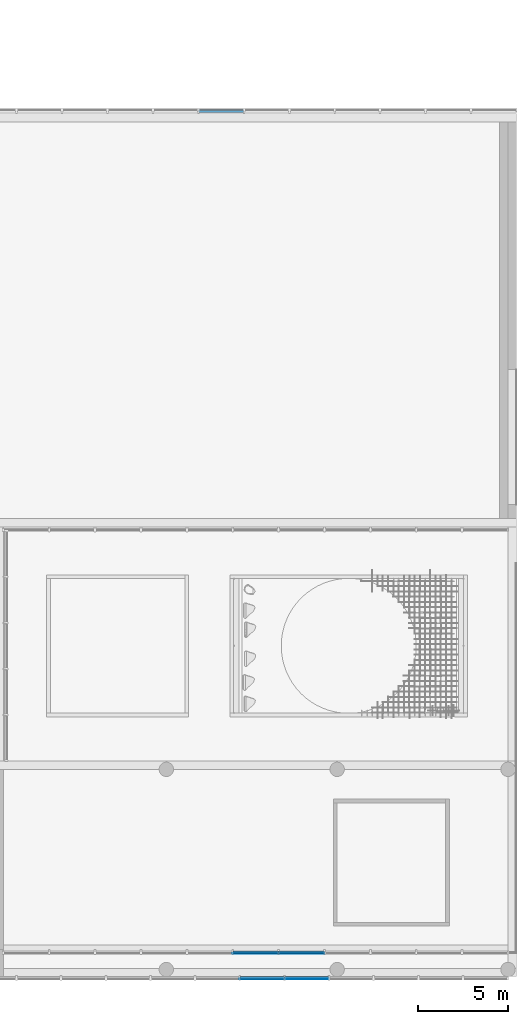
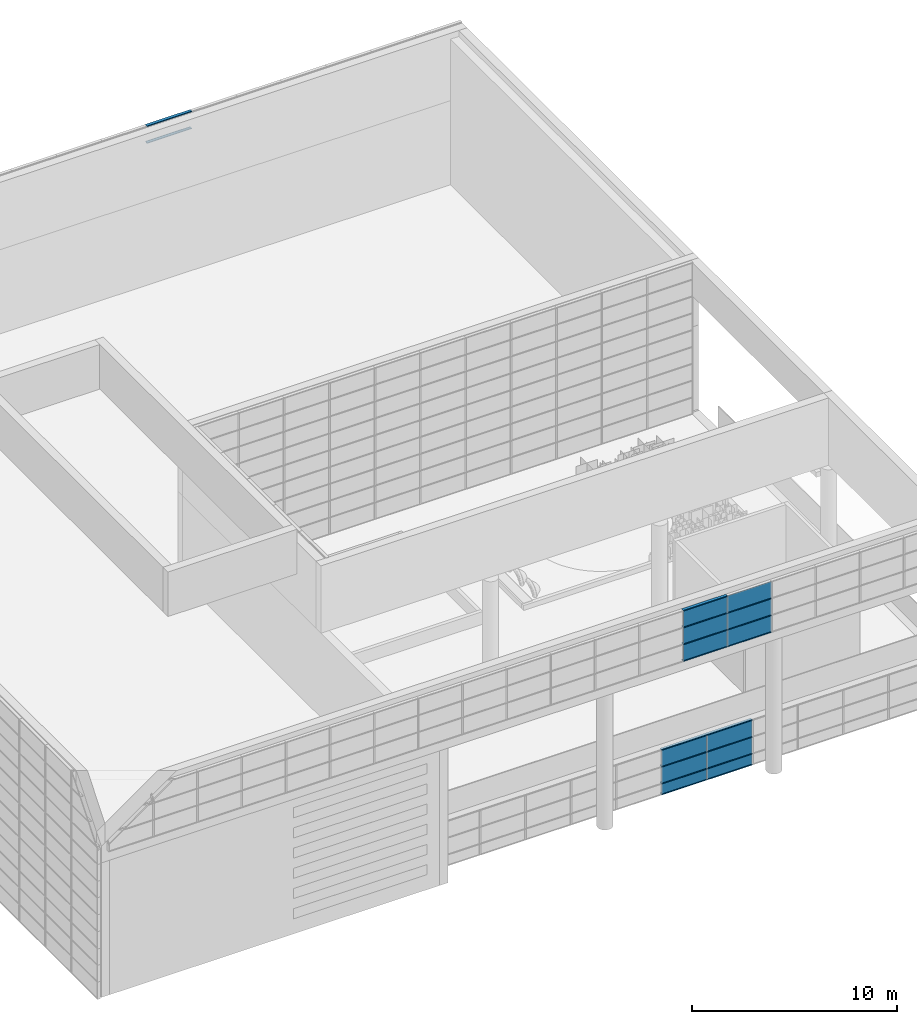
# One storey, part 52 of 105: 29 building element parts, 3 elements without a shape of their own.
"""IFC4 building model written with IfcOpenShell, lengths in millimetres."""

from ifc_helpers import new_model, entity, si_unit, converted_unit, derived_unit, direction, frame, origin_with_axes, place, context, subcontext, project, spatial, triangles, material, element, aggregate, save


model = new_model("IFC4")

# Units and contexts
model_context = context("Model", 3, precision=1e-05, world=origin_with_axes(), true_north=direction((0.0, 1.0)))
body_context = subcontext(model_context, "Body", "Model", "MODEL_VIEW")
ifc_project = project(units=[si_unit("LENGTHUNIT", "METRE", prefix="MILLI"), si_unit("AREAUNIT", "SQUARE_METRE"), si_unit("VOLUMEUNIT", "CUBIC_METRE"), converted_unit("PLANEANGLEUNIT", "DEGREE", entity("IfcLengthMeasure", 0.017453), si_unit("PLANEANGLEUNIT", "RADIAN"), dimensions=[0, 0, 0, 0, 0, 0, 0]), si_unit("SOLIDANGLEUNIT", "STERADIAN"), si_unit("MASSUNIT", "GRAM"), si_unit("TIMEUNIT", "SECOND"), si_unit("THERMODYNAMICTEMPERATUREUNIT", "DEGREE_CELSIUS"), si_unit("LUMINOUSINTENSITYUNIT", "LUMEN"), si_unit("POWERUNIT", "WATT"), derived_unit("THERMALTRANSMITTANCEUNIT", [(si_unit("POWERUNIT", "WATT"), 1), (si_unit("THERMODYNAMICTEMPERATUREUNIT", "KELVIN"), -1), (si_unit("AREAUNIT", "SQUARE_METRE"), -1)])], contexts=[model_context])

# Site, building, storey
site_placement = place(None, origin_with_axes())
site = spatial("IfcSite", under=ifc_project, at=site_placement, Name="Default Site", CompositionType="ELEMENT")
building_placement = place(site_placement, origin_with_axes())
building = spatial("IfcBuilding", under=site, at=building_placement, Name="Default Building", CompositionType="ELEMENT")
storey_placement = place(building_placement, origin_with_axes())
storey = spatial("IfcBuildingStorey", under=building, at=storey_placement, Name="OG - Story", CompositionType="ELEMENT", Elevation=0.0)

# Curtain wall, building element parts
curtain_wall_1_placement = place(storey_placement, origin_with_axes())
curtain_wall_1 = element("IfcCurtainWall", 1, at=curtain_wall_1_placement, inside=storey, Name="Fassade-001", PredefinedType="NOTDEFINED")
ifc_material_1 = material(Name="Normalglas")
building_element_part_1_placement = place(curtain_wall_1_placement, frame((52496.845873, -51289.262838, 0.0), z_axis=(0.0, 0.0, 1.0), x_axis=(1.0, 0.0, 0.0)))
building_element_part_1 = element("IfcBuildingElementPart", 2, at=building_element_part_1_placement, material=ifc_material_1, Name="Normalglas", PredefinedType="NOTDEFINED", context=body_context, shape_type="Tessellation", body=[
    triangles([(14020.0, 15.0, 645.0), (11489.091, 15.0, 645.0), (11489.091, -14.999, 645.0), (14020.0, -14.999, 645.0), (14020.0, 15.0, 5.0), (11489.091, 15.0, 5.0), (11489.091, -14.999, 5.0), (14020.0, -14.999, 5.0)], [[1, 2, 3], [1, 3, 4], [1, 5, 6], [1, 6, 2], [2, 6, 7], [2, 7, 3], [4, 3, 7], [4, 7, 8], [5, 1, 4], [5, 4, 8], [6, 5, 8], [6, 8, 7]], closed=False),
])
building_element_part_2_placement = place(curtain_wall_1_placement, frame((52496.845873, -51289.262838, 0.0), z_axis=(0.0, 0.0, 1.0), x_axis=(1.0, 0.0, 0.0)))
building_element_part_2 = element("IfcBuildingElementPart", 3, at=building_element_part_2_placement, material=ifc_material_1, Name="Normalglas", PredefinedType="NOTDEFINED", context=body_context, shape_type="Tessellation", body=[
    triangles([(16570.909, 15.0, 645.0), (14040.0, 15.0, 645.0), (14040.0, -14.999, 645.0), (16570.909, -14.999, 645.0), (16570.909, 15.0, 5.0), (14040.0, 15.0, 5.0), (14040.0, -14.999, 5.0), (16570.909, -14.999, 5.0)], [[1, 2, 3], [1, 3, 4], [1, 5, 6], [1, 6, 2], [2, 6, 7], [2, 7, 3], [4, 3, 7], [4, 7, 8], [5, 1, 4], [5, 4, 8], [6, 5, 8], [6, 8, 7]], closed=False),
])
building_element_part_3_placement = place(curtain_wall_1_placement, frame((52496.845873, -51289.262838, 0.0), z_axis=(0.0, 0.0, 1.0), x_axis=(1.0, 0.0, 0.0)))
building_element_part_3 = element("IfcBuildingElementPart", 4, at=building_element_part_3_placement, material=ifc_material_1, Name="Normalglas", PredefinedType="NOTDEFINED", context=body_context, shape_type="Tessellation", body=[
    triangles([(14020.0, 15.0, 1645.0), (11489.091, 15.0, 1645.0), (11489.091, -14.999, 1645.0), (14020.0, -14.999, 1645.0), (14020.0, 15.0, 655.0), (11489.091, 15.0, 655.0), (11489.091, -14.999, 655.0), (14020.0, -14.999, 655.0)], [[1, 2, 3], [1, 3, 4], [1, 5, 6], [1, 6, 2], [2, 6, 7], [2, 7, 3], [4, 3, 7], [4, 7, 8], [5, 1, 4], [5, 4, 8], [6, 5, 8], [6, 8, 7]], closed=False),
])
building_element_part_4_placement = place(curtain_wall_1_placement, frame((52496.845873, -51289.262838, 0.0), z_axis=(0.0, 0.0, 1.0), x_axis=(1.0, 0.0, 0.0)))
building_element_part_4 = element("IfcBuildingElementPart", 5, at=building_element_part_4_placement, material=ifc_material_1, Name="Normalglas", PredefinedType="NOTDEFINED", context=body_context, shape_type="Tessellation", body=[
    triangles([(16570.909, 15.0, 1645.0), (14040.0, 15.0, 1645.0), (14040.0, -14.999, 1645.0), (16570.909, -14.999, 1645.0), (16570.909, 15.0, 655.0), (14040.0, 15.0, 655.0), (14040.0, -14.999, 655.0), (16570.909, -14.999, 655.0)], [[1, 2, 3], [1, 3, 4], [1, 5, 6], [1, 6, 2], [2, 6, 7], [2, 7, 3], [4, 3, 7], [4, 7, 8], [5, 1, 4], [5, 4, 8], [6, 5, 8], [6, 8, 7]], closed=False),
])
building_element_part_5_placement = place(curtain_wall_1_placement, frame((52496.845873, -51289.262838, 0.0), z_axis=(0.0, 0.0, 1.0), x_axis=(1.0, 0.0, 0.0)))
building_element_part_5 = element("IfcBuildingElementPart", 6, at=building_element_part_5_placement, material=ifc_material_1, Name="Normalglas", PredefinedType="NOTDEFINED", context=body_context, shape_type="Tessellation", body=[
    triangles([(14020.0, 15.0, 2645.0), (11489.091, 15.0, 2645.0), (11489.091, -14.999, 2645.0), (14020.0, -14.999, 2645.0), (14020.0, 15.0, 1655.0), (11489.091, 15.0, 1655.0), (11489.091, -14.999, 1655.0), (14020.0, -14.999, 1655.0)], [[1, 2, 3], [1, 3, 4], [1, 5, 6], [1, 6, 2], [2, 6, 7], [2, 7, 3], [4, 3, 7], [4, 7, 8], [5, 1, 4], [5, 4, 8], [6, 5, 8], [6, 8, 7]], closed=False),
])
building_element_part_6_placement = place(curtain_wall_1_placement, frame((52496.845873, -51289.262838, 0.0), z_axis=(0.0, 0.0, 1.0), x_axis=(1.0, 0.0, 0.0)))
building_element_part_6 = element("IfcBuildingElementPart", 7, at=building_element_part_6_placement, material=ifc_material_1, Name="Normalglas", PredefinedType="NOTDEFINED", context=body_context, shape_type="Tessellation", body=[
    triangles([(16570.909, 15.0, 2645.0), (14040.0, 15.0, 2645.0), (14040.0, -14.999, 2645.0), (16570.909, -14.999, 2645.0), (16570.909, 15.0, 1655.0), (14040.0, 15.0, 1655.0), (14040.0, -14.999, 1655.0), (16570.909, -14.999, 1655.0)], [[1, 2, 3], [1, 3, 4], [1, 5, 6], [1, 6, 2], [2, 6, 7], [2, 7, 3], [4, 3, 7], [4, 7, 8], [5, 1, 4], [5, 4, 8], [6, 5, 8], [6, 8, 7]], closed=False),
])
ifc_material_2 = material(Name="Blech")
building_element_part_7_placement = place(curtain_wall_1_placement, frame((52496.845873, -51289.262838, 0.0), z_axis=(0.0, 0.0, 1.0), x_axis=(1.0, 0.0, 0.0)))
building_element_part_7 = element("IfcBuildingElementPart", 8, at=building_element_part_7_placement, material=ifc_material_2, Name="Blech", PredefinedType="NOTDEFINED", context=body_context, shape_type="Tessellation", body=[
    triangles([(14030.0, 15.0, 25.0), (14030.0, 133.0, 25.0), (14030.0, 15.0, 5.0), (14030.0, 133.0, -24.999), (14030.0, -14.999, 5.0), (14030.0, -34.999, -24.999), (14030.0, -14.999, 25.0), (14030.0, -34.999, 25.0), (11479.091, 15.0, 5.0), (11479.091, -14.999, 5.0), (11479.091, -14.999, 25.0), (11479.091, -34.999, 25.0), (11479.091, -34.999, -24.999), (11479.091, 133.0, -24.999), (11479.091, 133.0, 25.0), (11479.091, 15.0, 25.0)], [[1, 2, 3], [3, 2, 4], [3, 4, 5], [5, 4, 6], [5, 6, 7], [7, 6, 8], [5, 3, 9], [5, 9, 10], [11, 7, 5], [11, 5, 10], [7, 11, 12], [7, 12, 8], [13, 6, 8], [13, 8, 12], [14, 4, 6], [14, 6, 13], [15, 2, 4], [15, 4, 14], [16, 1, 2], [16, 2, 15], [3, 1, 16], [3, 16, 9], [16, 15, 9], [9, 15, 14], [9, 14, 10], [10, 14, 13], [10, 13, 11], [11, 13, 12]], closed=False),
])
building_element_part_8_placement = place(curtain_wall_1_placement, frame((52496.845873, -51289.262838, 0.0), z_axis=(0.0, 0.0, 1.0), x_axis=(1.0, 0.0, 0.0)))
building_element_part_8 = element("IfcBuildingElementPart", 9, at=building_element_part_8_placement, material=ifc_material_2, Name="Blech", PredefinedType="NOTDEFINED", context=body_context, shape_type="Tessellation", body=[
    triangles([(16580.909, 15.0, 25.0), (16580.909, 133.0, 25.0), (16580.909, 15.0, 5.0), (16580.909, 133.0, -24.999), (16580.909, -14.999, 5.0), (16580.909, -34.999, -24.999), (16580.909, -14.999, 25.0), (16580.909, -34.999, 25.0), (14030.0, 15.0, 5.0), (14030.0, -14.999, 5.0), (14030.0, -14.999, 25.0), (14030.0, -34.999, 25.0), (14030.0, -34.999, -24.999), (14030.0, 133.0, -24.999), (14030.0, 133.0, 25.0), (14030.0, 15.0, 25.0)], [[1, 2, 3], [3, 2, 4], [3, 4, 5], [5, 4, 6], [5, 6, 7], [7, 6, 8], [5, 3, 9], [5, 9, 10], [11, 7, 5], [11, 5, 10], [7, 11, 12], [7, 12, 8], [13, 6, 8], [13, 8, 12], [14, 4, 6], [14, 6, 13], [15, 2, 4], [15, 4, 14], [16, 1, 2], [16, 2, 15], [3, 1, 16], [3, 16, 9], [16, 15, 9], [9, 15, 14], [9, 14, 10], [10, 14, 13], [10, 13, 11], [11, 13, 12]], closed=False),
])
building_element_part_9_placement = place(curtain_wall_1_placement, frame((52496.845873, -51289.262838, 0.0), z_axis=(0.0, 0.0, 1.0), x_axis=(1.0, 0.0, 0.0)))
building_element_part_9 = element("IfcBuildingElementPart", 10, at=building_element_part_9_placement, material=ifc_material_2, Name="Blech", PredefinedType="NOTDEFINED", context=body_context, shape_type="Tessellation", body=[
    triangles([(14030.0, 133.0, 675.0), (14030.0, 15.0, 675.0), (14030.0, 133.0, 625.0), (14030.0, 15.0, 655.0), (14030.0, 15.0, 645.0), (14030.0, -14.999, 655.0), (14030.0, -14.999, 645.0), (14030.0, -14.999, 625.0), (14030.0, -14.999, 675.0), (14030.0, -34.999, 675.0), (14030.0, -34.999, 625.0), (14030.0, 15.0, 625.0), (11479.091, 15.0, 645.0), (11479.091, 15.0, 625.0), (11479.091, 133.0, 625.0), (11479.091, 133.0, 675.0), (11479.091, 15.0, 675.0), (11479.091, 15.0, 655.0), (11479.091, -14.999, 655.0), (11479.091, -14.999, 675.0), (11479.091, -34.999, 675.0), (11479.091, -34.999, 625.0), (11479.091, -14.999, 625.0), (11479.091, -14.999, 645.0)], [[1, 2, 3], [3, 2, 4], [3, 4, 5], [5, 4, 6], [5, 6, 7], [8, 9, 10], [8, 10, 11], [3, 5, 12], [12, 5, 13], [12, 13, 14], [12, 14, 15], [12, 15, 3], [1, 3, 15], [1, 15, 16], [2, 1, 16], [2, 16, 17], [2, 17, 18], [2, 18, 4], [4, 18, 19], [4, 19, 6], [9, 6, 19], [9, 19, 20], [20, 21, 10], [20, 10, 9], [11, 10, 21], [11, 21, 22], [23, 8, 11], [23, 11, 22], [7, 8, 23], [7, 23, 24], [5, 7, 24], [5, 24, 13], [15, 14, 16], [16, 14, 13], [16, 13, 18], [18, 13, 24], [18, 24, 19], [20, 23, 22], [20, 22, 21], [16, 18, 17]], closed=False),
])
building_element_part_10_placement = place(curtain_wall_1_placement, frame((52496.845873, -51289.262838, 0.0), z_axis=(0.0, 0.0, 1.0), x_axis=(1.0, 0.0, 0.0)))
building_element_part_10 = element("IfcBuildingElementPart", 11, at=building_element_part_10_placement, material=ifc_material_2, Name="Blech", PredefinedType="NOTDEFINED", context=body_context, shape_type="Tessellation", body=[
    triangles([(16580.909, 133.0, 675.0), (16580.909, 15.0, 675.0), (16580.909, 133.0, 625.0), (16580.909, 15.0, 655.0), (16580.909, 15.0, 645.0), (16580.909, -14.999, 655.0), (16580.909, -14.999, 645.0), (16580.909, -14.999, 625.0), (16580.909, -14.999, 675.0), (16580.909, -34.999, 675.0), (16580.909, -34.999, 625.0), (16580.909, 15.0, 625.0), (14030.0, 15.0, 645.0), (14030.0, 15.0, 625.0), (14030.0, 133.0, 625.0), (14030.0, 133.0, 675.0), (14030.0, 15.0, 675.0), (14030.0, 15.0, 655.0), (14030.0, -14.999, 655.0), (14030.0, -14.999, 675.0), (14030.0, -34.999, 675.0), (14030.0, -34.999, 625.0), (14030.0, -14.999, 625.0), (14030.0, -14.999, 645.0)], [[1, 2, 3], [3, 2, 4], [3, 4, 5], [5, 4, 6], [5, 6, 7], [8, 9, 10], [8, 10, 11], [3, 5, 12], [12, 5, 13], [12, 13, 14], [12, 14, 15], [12, 15, 3], [1, 3, 15], [1, 15, 16], [2, 1, 16], [2, 16, 17], [2, 17, 18], [2, 18, 4], [4, 18, 19], [4, 19, 6], [9, 6, 19], [9, 19, 20], [20, 21, 10], [20, 10, 9], [11, 10, 21], [11, 21, 22], [23, 8, 11], [23, 11, 22], [7, 8, 23], [7, 23, 24], [5, 7, 24], [5, 24, 13], [15, 14, 16], [16, 14, 13], [16, 13, 18], [18, 13, 24], [18, 24, 19], [20, 23, 22], [20, 22, 21], [16, 18, 17]], closed=False),
])
building_element_part_11_placement = place(curtain_wall_1_placement, frame((52496.845873, -51289.262838, 0.0), z_axis=(0.0, 0.0, 1.0), x_axis=(1.0, 0.0, 0.0)))
building_element_part_11 = element("IfcBuildingElementPart", 12, at=building_element_part_11_placement, material=ifc_material_2, Name="Blech", PredefinedType="NOTDEFINED", context=body_context, shape_type="Tessellation", body=[
    triangles([(14030.0, 133.0, 1675.0), (14030.0, 15.0, 1675.0), (14030.0, 133.0, 1625.0), (14030.0, 15.0, 1655.0), (14030.0, 15.0, 1645.0), (14030.0, -14.999, 1655.0), (14030.0, -14.999, 1645.0), (14030.0, -14.999, 1625.0), (14030.0, -14.999, 1675.0), (14030.0, -34.999, 1675.0), (14030.0, -34.999, 1625.0), (14030.0, 15.0, 1625.0), (11479.091, 15.0, 1645.0), (11479.091, 15.0, 1625.0), (11479.091, 133.0, 1625.0), (11479.091, 133.0, 1675.0), (11479.091, 15.0, 1675.0), (11479.091, 15.0, 1655.0), (11479.091, -14.999, 1655.0), (11479.091, -14.999, 1675.0), (11479.091, -34.999, 1675.0), (11479.091, -34.999, 1625.0), (11479.091, -14.999, 1625.0), (11479.091, -14.999, 1645.0)], [[1, 2, 3], [3, 2, 4], [3, 4, 5], [5, 4, 6], [5, 6, 7], [8, 9, 10], [8, 10, 11], [3, 5, 12], [12, 5, 13], [12, 13, 14], [12, 14, 15], [12, 15, 3], [1, 3, 15], [1, 15, 16], [2, 1, 16], [2, 16, 17], [2, 17, 18], [2, 18, 4], [4, 18, 19], [4, 19, 6], [9, 6, 19], [9, 19, 20], [20, 21, 10], [20, 10, 9], [11, 10, 21], [11, 21, 22], [23, 8, 11], [23, 11, 22], [7, 8, 23], [7, 23, 24], [5, 7, 24], [5, 24, 13], [15, 14, 16], [16, 14, 13], [16, 13, 18], [18, 13, 24], [18, 24, 19], [20, 23, 22], [20, 22, 21], [16, 18, 17]], closed=False),
])
building_element_part_12_placement = place(curtain_wall_1_placement, frame((52496.845873, -51289.262838, 0.0), z_axis=(0.0, 0.0, 1.0), x_axis=(1.0, 0.0, 0.0)))
building_element_part_12 = element("IfcBuildingElementPart", 13, at=building_element_part_12_placement, material=ifc_material_2, Name="Blech", PredefinedType="NOTDEFINED", context=body_context, shape_type="Tessellation", body=[
    triangles([(14030.0, 15.0, 2625.0), (14030.0, 133.0, 2625.0), (14030.0, 15.0, 2645.0), (14030.0, 133.0, 2675.0), (14030.0, -14.999, 2645.0), (14030.0, -34.999, 2675.0), (14030.0, -14.999, 2625.0), (14030.0, -34.999, 2625.0), (11479.091, 15.0, 2645.0), (11479.091, 15.0, 2625.0), (11479.091, 133.0, 2625.0), (11479.091, 133.0, 2675.0), (11479.091, -34.999, 2675.0), (11479.091, -34.999, 2625.0), (11479.091, -14.999, 2625.0), (11479.091, -14.999, 2645.0)], [[1, 2, 3], [3, 2, 4], [3, 4, 5], [5, 4, 6], [5, 6, 7], [7, 6, 8], [3, 9, 10], [3, 10, 1], [10, 11, 2], [10, 2, 1], [11, 12, 4], [11, 4, 2], [12, 13, 6], [12, 6, 4], [13, 14, 8], [13, 8, 6], [7, 8, 14], [7, 14, 15], [15, 16, 5], [15, 5, 7], [5, 16, 9], [5, 9, 3], [10, 11, 9], [9, 11, 12], [9, 12, 16], [16, 12, 13], [16, 13, 15], [15, 13, 14]], closed=False),
])
building_element_part_13_placement = place(curtain_wall_1_placement, frame((52496.845873, -51289.262838, 0.0), z_axis=(0.0, 0.0, 1.0), x_axis=(1.0, 0.0, 0.0)))
building_element_part_13 = element("IfcBuildingElementPart", 14, at=building_element_part_13_placement, material=ifc_material_2, Name="Blech", PredefinedType="NOTDEFINED", context=body_context, shape_type="Tessellation", body=[
    triangles([(16580.909, 133.0, 1675.0), (16580.909, 15.0, 1675.0), (16580.909, 133.0, 1625.0), (16580.909, 15.0, 1655.0), (16580.909, 15.0, 1645.0), (16580.909, -14.999, 1655.0), (16580.909, -14.999, 1645.0), (16580.909, -14.999, 1625.0), (16580.909, -14.999, 1675.0), (16580.909, -34.999, 1675.0), (16580.909, -34.999, 1625.0), (16580.909, 15.0, 1625.0), (14030.0, 15.0, 1645.0), (14030.0, 15.0, 1625.0), (14030.0, 133.0, 1625.0), (14030.0, 133.0, 1675.0), (14030.0, 15.0, 1675.0), (14030.0, 15.0, 1655.0), (14030.0, -14.999, 1655.0), (14030.0, -14.999, 1675.0), (14030.0, -34.999, 1675.0), (14030.0, -34.999, 1625.0), (14030.0, -14.999, 1625.0), (14030.0, -14.999, 1645.0)], [[1, 2, 3], [3, 2, 4], [3, 4, 5], [5, 4, 6], [5, 6, 7], [8, 9, 10], [8, 10, 11], [3, 5, 12], [12, 5, 13], [12, 13, 14], [12, 14, 15], [12, 15, 3], [1, 3, 15], [1, 15, 16], [2, 1, 16], [2, 16, 17], [2, 17, 18], [2, 18, 4], [4, 18, 19], [4, 19, 6], [9, 6, 19], [9, 19, 20], [20, 21, 10], [20, 10, 9], [11, 10, 21], [11, 21, 22], [23, 8, 11], [23, 11, 22], [7, 8, 23], [7, 23, 24], [5, 7, 24], [5, 24, 13], [15, 14, 16], [16, 14, 13], [16, 13, 18], [18, 13, 24], [18, 24, 19], [20, 23, 22], [20, 22, 21], [16, 18, 17]], closed=False),
])
building_element_part_14_placement = place(curtain_wall_1_placement, frame((52496.845873, -51289.262838, 0.0), z_axis=(0.0, 0.0, 1.0), x_axis=(1.0, 0.0, 0.0)))
building_element_part_14 = element("IfcBuildingElementPart", 15, at=building_element_part_14_placement, material=ifc_material_2, Name="Blech", PredefinedType="NOTDEFINED", context=body_context, shape_type="Tessellation", body=[
    triangles([(16580.909, 15.0, 2625.0), (16580.909, 133.0, 2625.0), (16580.909, 15.0, 2645.0), (16580.909, 133.0, 2675.0), (16580.909, -14.999, 2645.0), (16580.909, -34.999, 2675.0), (16580.909, -14.999, 2625.0), (16580.909, -34.999, 2625.0), (14030.0, 15.0, 2645.0), (14030.0, 15.0, 2625.0), (14030.0, 133.0, 2625.0), (14030.0, 133.0, 2675.0), (14030.0, -34.999, 2675.0), (14030.0, -34.999, 2625.0), (14030.0, -14.999, 2625.0), (14030.0, -14.999, 2645.0)], [[1, 2, 3], [3, 2, 4], [3, 4, 5], [5, 4, 6], [5, 6, 7], [7, 6, 8], [3, 9, 10], [3, 10, 1], [10, 11, 2], [10, 2, 1], [11, 12, 4], [11, 4, 2], [12, 13, 6], [12, 6, 4], [13, 14, 8], [13, 8, 6], [7, 8, 14], [7, 14, 15], [15, 16, 5], [15, 5, 7], [5, 16, 9], [5, 9, 3], [10, 11, 9], [9, 11, 12], [9, 12, 16], [16, 12, 13], [16, 13, 15], [15, 13, 14]], closed=False),
])
aggregate(curtain_wall_1, [building_element_part_1, building_element_part_2, building_element_part_3, building_element_part_4, building_element_part_5, building_element_part_6, building_element_part_7, building_element_part_8, building_element_part_9, building_element_part_10, building_element_part_11, building_element_part_12, building_element_part_13, building_element_part_14])

curtain_wall_2_placement = place(storey_placement, origin_with_axes())
curtain_wall_2 = element("IfcCurtainWall", 16, at=curtain_wall_2_placement, inside=storey, Name="Fassade-002", PredefinedType="NOTDEFINED")
building_element_part_15_placement = place(curtain_wall_2_placement, frame((33339.077852, -52722.262838, 8660.317768), z_axis=(0.0, 0.0, 1.0), x_axis=(1.0, 0.0, 0.0)))
building_element_part_15 = element("IfcBuildingElementPart", 17, at=building_element_part_15_placement, material=ifc_material_1, Name="Normalglas", PredefinedType="NOTDEFINED", context=body_context, shape_type="Tessellation", body=[
    triangles([(33498.254, 15.0, 995.0), (31036.161, 15.0, 995.0), (31036.161, -14.999, 995.0), (33498.254, -14.999, 995.0), (33498.254, 15.0, 5.0), (31036.161, 15.0, 5.0), (31036.161, -14.999, 5.0), (33498.254, -14.999, 5.0)], [[1, 2, 3], [1, 3, 4], [1, 5, 6], [1, 6, 2], [2, 6, 7], [2, 7, 3], [4, 3, 7], [4, 7, 8], [5, 1, 4], [5, 4, 8], [6, 5, 8], [6, 8, 7]], closed=False),
])
building_element_part_16_placement = place(curtain_wall_2_placement, frame((33339.077852, -52722.262838, 8660.317768), z_axis=(0.0, 0.0, 1.0), x_axis=(1.0, 0.0, 0.0)))
building_element_part_16 = element("IfcBuildingElementPart", 18, at=building_element_part_16_placement, material=ifc_material_1, Name="Normalglas", PredefinedType="NOTDEFINED", context=body_context, shape_type="Tessellation", body=[
    triangles([(33498.254, 15.0, 1995.0), (31036.161, 15.0, 1995.0), (31036.161, -14.999, 1995.0), (33498.254, -14.999, 1995.0), (33498.254, 15.0, 1005.0), (31036.161, 15.0, 1005.0), (31036.161, -14.999, 1005.0), (33498.254, -14.999, 1005.0)], [[1, 2, 3], [1, 3, 4], [1, 5, 6], [1, 6, 2], [2, 6, 7], [2, 7, 3], [4, 3, 7], [4, 7, 8], [5, 1, 4], [5, 4, 8], [6, 5, 8], [6, 8, 7]], closed=False),
])
building_element_part_17_placement = place(curtain_wall_2_placement, frame((33339.077852, -52722.262838, 8660.317768), z_axis=(0.0, 0.0, 1.0), x_axis=(1.0, 0.0, 0.0)))
building_element_part_17 = element("IfcBuildingElementPart", 19, at=building_element_part_17_placement, material=ifc_material_1, Name="Normalglas", PredefinedType="NOTDEFINED", context=body_context, shape_type="Tessellation", body=[
    triangles([(33498.254, 15.0, 2995.0), (31036.161, 15.0, 2995.0), (31036.161, -14.999, 2995.0), (33498.254, -14.999, 2995.0), (33498.254, 15.0, 2005.0), (31036.161, 15.0, 2005.0), (31036.161, -14.999, 2005.0), (33498.254, -14.999, 2005.0)], [[1, 2, 3], [1, 3, 4], [1, 5, 6], [1, 6, 2], [2, 6, 7], [2, 7, 3], [4, 3, 7], [4, 7, 8], [5, 1, 4], [5, 4, 8], [6, 5, 8], [6, 8, 7]], closed=False),
])
building_element_part_18_placement = place(curtain_wall_2_placement, frame((33339.077852, -52722.262838, 8660.317768), z_axis=(0.0, 0.0, 1.0), x_axis=(1.0, 0.0, 0.0)))
building_element_part_18 = element("IfcBuildingElementPart", 20, at=building_element_part_18_placement, material=ifc_material_1, Name="Normalglas", PredefinedType="NOTDEFINED", context=body_context, shape_type="Tessellation", body=[
    triangles([(35980.347, 15.0, 995.0), (33518.254, 15.0, 995.0), (33518.254, -14.999, 995.0), (35980.347, -14.999, 995.0), (35980.347, 15.0, 5.0), (33518.254, 15.0, 5.0), (33518.254, -14.999, 5.0), (35980.347, -14.999, 5.0)], [[1, 2, 3], [1, 3, 4], [1, 5, 6], [1, 6, 2], [2, 6, 7], [2, 7, 3], [4, 3, 7], [4, 7, 8], [5, 1, 4], [5, 4, 8], [6, 5, 8], [6, 8, 7]], closed=False),
])
building_element_part_19_placement = place(curtain_wall_2_placement, frame((33339.077852, -52722.262838, 8660.317768), z_axis=(0.0, 0.0, 1.0), x_axis=(1.0, 0.0, 0.0)))
building_element_part_19 = element("IfcBuildingElementPart", 21, at=building_element_part_19_placement, material=ifc_material_1, Name="Normalglas", PredefinedType="NOTDEFINED", context=body_context, shape_type="Tessellation", body=[
    triangles([(35980.347, 15.0, 1995.0), (33518.254, 15.0, 1995.0), (33518.254, -14.999, 1995.0), (35980.347, -14.999, 1995.0), (35980.347, 15.0, 1005.0), (33518.254, 15.0, 1005.0), (33518.254, -14.999, 1005.0), (35980.347, -14.999, 1005.0)], [[1, 2, 3], [1, 3, 4], [1, 5, 6], [1, 6, 2], [2, 6, 7], [2, 7, 3], [4, 3, 7], [4, 7, 8], [5, 1, 4], [5, 4, 8], [6, 5, 8], [6, 8, 7]], closed=False),
])
building_element_part_20_placement = place(curtain_wall_2_placement, frame((33339.077852, -52722.262838, 8660.317768), z_axis=(0.0, 0.0, 1.0), x_axis=(1.0, 0.0, 0.0)))
building_element_part_20 = element("IfcBuildingElementPart", 22, at=building_element_part_20_placement, material=ifc_material_1, Name="Normalglas", PredefinedType="NOTDEFINED", context=body_context, shape_type="Tessellation", body=[
    triangles([(35980.347, 15.0, 2995.0), (33518.254, 15.0, 2995.0), (33518.254, -14.999, 2995.0), (35980.347, -14.999, 2995.0), (35980.347, 15.0, 2005.0), (33518.254, 15.0, 2005.0), (33518.254, -14.999, 2005.0), (35980.347, -14.999, 2005.0)], [[1, 2, 3], [1, 3, 4], [1, 5, 6], [1, 6, 2], [2, 6, 7], [2, 7, 3], [4, 3, 7], [4, 7, 8], [5, 1, 4], [5, 4, 8], [6, 5, 8], [6, 8, 7]], closed=False),
])
building_element_part_21_placement = place(curtain_wall_2_placement, frame((33339.077852, -52722.262838, 8660.317768), z_axis=(0.0, 0.0, 1.0), x_axis=(1.0, 0.0, 0.0)))
building_element_part_21 = element("IfcBuildingElementPart", 23, at=building_element_part_21_placement, material=ifc_material_2, Name="Blech", PredefinedType="NOTDEFINED", context=body_context, shape_type="Tessellation", body=[
    triangles([(33508.254, 15.0, 25.0), (33508.254, 133.0, 25.0), (33508.254, 15.0, 5.0), (33508.254, 133.0, -24.999), (33508.254, -14.999, 5.0), (33508.254, -34.999, -24.999), (33508.254, -14.999, 25.0), (33508.254, -34.999, 25.0), (31026.161, 15.0, 5.0), (31026.161, -14.999, 5.0), (31026.161, -14.999, 25.0), (31026.161, -34.999, 25.0), (31026.161, -34.999, -24.999), (31026.161, 133.0, -24.999), (31026.161, 133.0, 25.0), (31026.161, 15.0, 25.0)], [[1, 2, 3], [3, 2, 4], [3, 4, 5], [5, 4, 6], [5, 6, 7], [7, 6, 8], [5, 3, 9], [5, 9, 10], [11, 7, 5], [11, 5, 10], [7, 11, 12], [7, 12, 8], [13, 6, 8], [13, 8, 12], [14, 4, 6], [14, 6, 13], [15, 2, 4], [15, 4, 14], [16, 1, 2], [16, 2, 15], [3, 1, 16], [3, 16, 9], [16, 15, 9], [9, 15, 14], [9, 14, 10], [10, 14, 13], [10, 13, 11], [11, 13, 12]], closed=False),
])
building_element_part_22_placement = place(curtain_wall_2_placement, frame((33339.077852, -52722.262838, 8660.317768), z_axis=(0.0, 0.0, 1.0), x_axis=(1.0, 0.0, 0.0)))
building_element_part_22 = element("IfcBuildingElementPart", 24, at=building_element_part_22_placement, material=ifc_material_2, Name="Blech", PredefinedType="NOTDEFINED", context=body_context, shape_type="Tessellation", body=[
    triangles([(35990.347, 15.0, 25.0), (35990.347, 133.0, 25.0), (35990.347, 15.0, 5.0), (35990.347, 133.0, -24.999), (35990.347, -14.999, 5.0), (35990.347, -34.999, -24.999), (35990.347, -14.999, 25.0), (35990.347, -34.999, 25.0), (33508.254, 15.0, 5.0), (33508.254, -14.999, 5.0), (33508.254, -14.999, 25.0), (33508.254, -34.999, 25.0), (33508.254, -34.999, -24.999), (33508.254, 133.0, -24.999), (33508.254, 133.0, 25.0), (33508.254, 15.0, 25.0)], [[1, 2, 3], [3, 2, 4], [3, 4, 5], [5, 4, 6], [5, 6, 7], [7, 6, 8], [5, 3, 9], [5, 9, 10], [11, 7, 5], [11, 5, 10], [7, 11, 12], [7, 12, 8], [13, 6, 8], [13, 8, 12], [14, 4, 6], [14, 6, 13], [15, 2, 4], [15, 4, 14], [16, 1, 2], [16, 2, 15], [3, 1, 16], [3, 16, 9], [16, 15, 9], [9, 15, 14], [9, 14, 10], [10, 14, 13], [10, 13, 11], [11, 13, 12]], closed=False),
])
building_element_part_23_placement = place(curtain_wall_2_placement, frame((33339.077852, -52722.262838, 8660.317768), z_axis=(0.0, 0.0, 1.0), x_axis=(1.0, 0.0, 0.0)))
building_element_part_23 = element("IfcBuildingElementPart", 25, at=building_element_part_23_placement, material=ifc_material_2, Name="Blech", PredefinedType="NOTDEFINED", context=body_context, shape_type="Tessellation", body=[
    triangles([(33508.254, 133.0, 1025.0), (33508.254, 15.0, 1025.0), (33508.254, 133.0, 975.0), (33508.254, 15.0, 1005.0), (33508.254, 15.0, 995.0), (33508.254, -14.999, 1005.0), (33508.254, -14.999, 995.0), (33508.254, -14.999, 975.0), (33508.254, -14.999, 1025.0), (33508.254, -34.999, 1025.0), (33508.254, -34.999, 975.0), (33508.254, 15.0, 975.0), (31026.161, 15.0, 995.0), (31026.161, 15.0, 975.0), (31026.161, 133.0, 975.0), (31026.161, 133.0, 1025.0), (31026.161, 15.0, 1025.0), (31026.161, 15.0, 1005.0), (31026.161, -14.999, 1005.0), (31026.161, -14.999, 1025.0), (31026.161, -34.999, 1025.0), (31026.161, -34.999, 975.0), (31026.161, -14.999, 975.0), (31026.161, -14.999, 995.0)], [[1, 2, 3], [3, 2, 4], [3, 4, 5], [5, 4, 6], [5, 6, 7], [8, 9, 10], [8, 10, 11], [3, 5, 12], [12, 5, 13], [12, 13, 14], [12, 14, 15], [12, 15, 3], [1, 3, 15], [1, 15, 16], [2, 1, 16], [2, 16, 17], [2, 17, 18], [2, 18, 4], [4, 18, 19], [4, 19, 6], [9, 6, 19], [9, 19, 20], [20, 21, 10], [20, 10, 9], [11, 10, 21], [11, 21, 22], [23, 8, 11], [23, 11, 22], [7, 8, 23], [7, 23, 24], [5, 7, 24], [5, 24, 13], [15, 14, 16], [16, 14, 13], [16, 13, 18], [18, 13, 24], [18, 24, 19], [20, 23, 22], [20, 22, 21], [16, 18, 17]], closed=False),
])
building_element_part_24_placement = place(curtain_wall_2_placement, frame((33339.077852, -52722.262838, 8660.317768), z_axis=(0.0, 0.0, 1.0), x_axis=(1.0, 0.0, 0.0)))
building_element_part_24 = element("IfcBuildingElementPart", 26, at=building_element_part_24_placement, material=ifc_material_2, Name="Blech", PredefinedType="NOTDEFINED", context=body_context, shape_type="Tessellation", body=[
    triangles([(35990.347, 133.0, 1025.0), (35990.347, 15.0, 1025.0), (35990.347, 133.0, 975.0), (35990.347, 15.0, 1005.0), (35990.347, 15.0, 995.0), (35990.347, -14.999, 1005.0), (35990.347, -14.999, 995.0), (35990.347, -14.999, 975.0), (35990.347, -14.999, 1025.0), (35990.347, -34.999, 1025.0), (35990.347, -34.999, 975.0), (35990.347, 15.0, 975.0), (33508.254, 15.0, 995.0), (33508.254, 15.0, 975.0), (33508.254, 133.0, 975.0), (33508.254, 133.0, 1025.0), (33508.254, 15.0, 1025.0), (33508.254, 15.0, 1005.0), (33508.254, -14.999, 1005.0), (33508.254, -14.999, 1025.0), (33508.254, -34.999, 1025.0), (33508.254, -34.999, 975.0), (33508.254, -14.999, 975.0), (33508.254, -14.999, 995.0)], [[1, 2, 3], [3, 2, 4], [3, 4, 5], [5, 4, 6], [5, 6, 7], [8, 9, 10], [8, 10, 11], [3, 5, 12], [12, 5, 13], [12, 13, 14], [12, 14, 15], [12, 15, 3], [1, 3, 15], [1, 15, 16], [2, 1, 16], [2, 16, 17], [2, 17, 18], [2, 18, 4], [4, 18, 19], [4, 19, 6], [9, 6, 19], [9, 19, 20], [20, 21, 10], [20, 10, 9], [11, 10, 21], [11, 21, 22], [23, 8, 11], [23, 11, 22], [7, 8, 23], [7, 23, 24], [5, 7, 24], [5, 24, 13], [15, 14, 16], [16, 14, 13], [16, 13, 18], [18, 13, 24], [18, 24, 19], [20, 23, 22], [20, 22, 21], [16, 18, 17]], closed=False),
])
building_element_part_25_placement = place(curtain_wall_2_placement, frame((33339.077852, -52722.262838, 8660.317768), z_axis=(0.0, 0.0, 1.0), x_axis=(1.0, 0.0, 0.0)))
building_element_part_25 = element("IfcBuildingElementPart", 27, at=building_element_part_25_placement, material=ifc_material_2, Name="Blech", PredefinedType="NOTDEFINED", context=body_context, shape_type="Tessellation", body=[
    triangles([(33508.254, 133.0, 2025.0), (33508.254, 15.0, 2025.0), (33508.254, 133.0, 1975.0), (33508.254, 15.0, 2005.0), (33508.254, 15.0, 1995.0), (33508.254, -14.999, 2005.0), (33508.254, -14.999, 1995.0), (33508.254, -14.999, 1975.0), (33508.254, -14.999, 2025.0), (33508.254, -34.999, 2025.0), (33508.254, -34.999, 1975.0), (33508.254, 15.0, 1975.0), (31026.161, 15.0, 1995.0), (31026.161, 15.0, 1975.0), (31026.161, 133.0, 1975.0), (31026.161, 133.0, 2025.0), (31026.161, 15.0, 2025.0), (31026.161, 15.0, 2005.0), (31026.161, -14.999, 2005.0), (31026.161, -14.999, 2025.0), (31026.161, -34.999, 2025.0), (31026.161, -34.999, 1975.0), (31026.161, -14.999, 1975.0), (31026.161, -14.999, 1995.0)], [[1, 2, 3], [3, 2, 4], [3, 4, 5], [5, 4, 6], [5, 6, 7], [8, 9, 10], [8, 10, 11], [3, 5, 12], [12, 5, 13], [12, 13, 14], [12, 14, 15], [12, 15, 3], [1, 3, 15], [1, 15, 16], [2, 1, 16], [2, 16, 17], [2, 17, 18], [2, 18, 4], [4, 18, 19], [4, 19, 6], [9, 6, 19], [9, 19, 20], [20, 21, 10], [20, 10, 9], [11, 10, 21], [11, 21, 22], [23, 8, 11], [23, 11, 22], [7, 8, 23], [7, 23, 24], [5, 7, 24], [5, 24, 13], [15, 14, 16], [16, 14, 13], [16, 13, 18], [18, 13, 24], [18, 24, 19], [20, 23, 22], [20, 22, 21], [16, 18, 17]], closed=False),
])
building_element_part_26_placement = place(curtain_wall_2_placement, frame((33339.077852, -52722.262838, 8660.317768), z_axis=(0.0, 0.0, 1.0), x_axis=(1.0, 0.0, 0.0)))
building_element_part_26 = element("IfcBuildingElementPart", 28, at=building_element_part_26_placement, material=ifc_material_2, Name="Blech", PredefinedType="NOTDEFINED", context=body_context, shape_type="Tessellation", body=[
    triangles([(35990.347, 133.0, 2025.0), (35990.347, 15.0, 2025.0), (35990.347, 133.0, 1975.0), (35990.347, 15.0, 2005.0), (35990.347, 15.0, 1995.0), (35990.347, -14.999, 2005.0), (35990.347, -14.999, 1995.0), (35990.347, -14.999, 1975.0), (35990.347, -14.999, 2025.0), (35990.347, -34.999, 2025.0), (35990.347, -34.999, 1975.0), (35990.347, 15.0, 1975.0), (33508.254, 15.0, 1995.0), (33508.254, 15.0, 1975.0), (33508.254, 133.0, 1975.0), (33508.254, 133.0, 2025.0), (33508.254, 15.0, 2025.0), (33508.254, 15.0, 2005.0), (33508.254, -14.999, 2005.0), (33508.254, -14.999, 2025.0), (33508.254, -34.999, 2025.0), (33508.254, -34.999, 1975.0), (33508.254, -14.999, 1975.0), (33508.254, -14.999, 1995.0)], [[1, 2, 3], [3, 2, 4], [3, 4, 5], [5, 4, 6], [5, 6, 7], [8, 9, 10], [8, 10, 11], [3, 5, 12], [12, 5, 13], [12, 13, 14], [12, 14, 15], [12, 15, 3], [1, 3, 15], [1, 15, 16], [2, 1, 16], [2, 16, 17], [2, 17, 18], [2, 18, 4], [4, 18, 19], [4, 19, 6], [9, 6, 19], [9, 19, 20], [20, 21, 10], [20, 10, 9], [11, 10, 21], [11, 21, 22], [23, 8, 11], [23, 11, 22], [7, 8, 23], [7, 23, 24], [5, 7, 24], [5, 24, 13], [15, 14, 16], [16, 14, 13], [16, 13, 18], [18, 13, 24], [18, 24, 19], [20, 23, 22], [20, 22, 21], [16, 18, 17]], closed=False),
])
building_element_part_27_placement = place(curtain_wall_2_placement, frame((33339.077852, -52722.262838, 8660.317768), z_axis=(0.0, 0.0, 1.0), x_axis=(1.0, 0.0, 0.0)))
building_element_part_27 = element("IfcBuildingElementPart", 29, at=building_element_part_27_placement, material=ifc_material_2, Name="Blech", PredefinedType="NOTDEFINED", context=body_context, shape_type="Tessellation", body=[
    triangles([(33508.254, 15.0, 2975.0), (33508.254, 133.0, 2975.0), (33508.254, 15.0, 2995.0), (33508.254, 133.0, 3025.0), (33508.254, -14.999, 2995.0), (33508.254, -34.999, 3025.0), (33508.254, -14.999, 2975.0), (33508.254, -34.999, 2975.0), (31026.161, 15.0, 2995.0), (31026.161, 15.0, 2975.0), (31026.161, 133.0, 2975.0), (31026.161, 133.0, 3025.0), (31026.161, -34.999, 3025.0), (31026.161, -34.999, 2975.0), (31026.161, -14.999, 2975.0), (31026.161, -14.999, 2995.0)], [[1, 2, 3], [3, 2, 4], [3, 4, 5], [5, 4, 6], [5, 6, 7], [7, 6, 8], [3, 9, 10], [3, 10, 1], [10, 11, 2], [10, 2, 1], [11, 12, 4], [11, 4, 2], [12, 13, 6], [12, 6, 4], [13, 14, 8], [13, 8, 6], [7, 8, 14], [7, 14, 15], [15, 16, 5], [15, 5, 7], [5, 16, 9], [5, 9, 3], [10, 11, 9], [9, 11, 12], [9, 12, 16], [16, 12, 13], [16, 13, 15], [15, 13, 14]], closed=False),
])
aggregate(curtain_wall_2, [building_element_part_15, building_element_part_16, building_element_part_17, building_element_part_18, building_element_part_19, building_element_part_20, building_element_part_21, building_element_part_22, building_element_part_23, building_element_part_24, building_element_part_25, building_element_part_26, building_element_part_27])

curtain_wall_3_placement = place(storey_placement, origin_with_axes())
curtain_wall_3 = element("IfcCurtainWall", 30, at=curtain_wall_3_placement, inside=storey, Name="Fassade-004", PredefinedType="NOTDEFINED")
building_element_part_28_placement = place(curtain_wall_3_placement, frame((33014.549222, -4389.262838, 9000.0), z_axis=(0.0, 0.0, 1.0), x_axis=(1.0, 0.0, 0.0)))
building_element_part_28 = element("IfcBuildingElementPart", 31, at=building_element_part_28_placement, material=ifc_material_2, Name="Blech", PredefinedType="NOTDEFINED", context=body_context, shape_type="Tessellation", body=[
    triangles([(31578.947, 35.0, 1975.0), (31578.947, 15.0, 1975.0), (31578.947, 35.0, 2025.0), (31578.947, 15.0, 1995.0), (31578.947, 15.0, 2005.0), (31578.947, -14.999, 1995.0), (31578.947, -14.999, 2005.0), (31578.947, -14.999, 2025.0), (31578.947, -14.999, 1975.0), (31578.947, -132.999, 1975.0), (31578.947, -132.999, 2025.0), (31578.947, 15.0, 2025.0), (29052.632, -14.999, 1995.0), (29052.632, 15.0, 1995.0), (29052.632, 15.0, 1975.0), (29052.632, 35.0, 1975.0), (29052.632, 35.0, 2025.0), (29052.632, 15.0, 2025.0), (29052.632, 15.0, 2005.0), (29052.632, -14.999, 2005.0), (29052.632, -14.999, 2025.0), (29052.632, -132.999, 2025.0), (29052.632, -132.999, 1975.0), (29052.632, -14.999, 1975.0)], [[1, 2, 3], [3, 2, 4], [3, 4, 5], [5, 4, 6], [5, 6, 7], [8, 9, 10], [8, 10, 11], [3, 5, 12], [6, 13, 14], [6, 14, 4], [4, 14, 15], [4, 15, 2], [15, 16, 1], [15, 1, 2], [1, 16, 17], [1, 17, 3], [18, 12, 3], [18, 3, 17], [12, 18, 19], [12, 19, 5], [7, 5, 19], [7, 19, 20], [8, 7, 20], [8, 20, 21], [8, 21, 22], [8, 22, 11], [11, 22, 23], [11, 23, 10], [9, 10, 23], [9, 23, 24], [9, 24, 13], [9, 13, 6], [17, 18, 16], [16, 18, 19], [16, 19, 14], [14, 19, 20], [14, 20, 13], [24, 21, 22], [24, 22, 23], [16, 14, 15]], closed=False),
])
building_element_part_29_placement = place(curtain_wall_3_placement, frame((33014.549222, -4389.262838, 9000.0), z_axis=(0.0, 0.0, 1.0), x_axis=(1.0, 0.0, 0.0)))
building_element_part_29 = element("IfcBuildingElementPart", 32, at=building_element_part_29_placement, material=ifc_material_2, Name="Blech", PredefinedType="NOTDEFINED", context=body_context, shape_type="Tessellation", body=[
    triangles([(31578.947, 15.0, 2975.0), (31578.947, 15.0, 2995.0), (31578.947, 35.0, 3025.0), (31578.947, -14.999, 2995.0), (31578.947, -132.999, 2975.0), (31578.947, -14.999, 2975.0), (31578.947, -132.999, 3025.0), (31578.947, 35.0, 2975.0), (29052.632, -14.999, 2995.0), (29052.632, 15.0, 2995.0), (29052.632, 15.0, 2975.0), (29052.632, 35.0, 2975.0), (29052.632, 35.0, 3025.0), (29052.632, -132.999, 3025.0), (29052.632, -132.999, 2975.0), (29052.632, -14.999, 2975.0)], [[1, 2, 3], [3, 2, 4], [3, 4, 5], [5, 4, 6], [3, 5, 7], [1, 3, 8], [2, 4, 9], [2, 9, 10], [11, 1, 2], [11, 2, 10], [1, 11, 12], [1, 12, 8], [13, 3, 8], [13, 8, 12], [14, 7, 3], [14, 3, 13], [15, 5, 7], [15, 7, 14], [16, 6, 5], [16, 5, 15], [4, 6, 16], [4, 16, 9], [13, 12, 11], [13, 11, 10], [13, 10, 9], [13, 9, 15], [13, 15, 14], [16, 15, 9]], closed=False),
])
aggregate(curtain_wall_3, [building_element_part_28, building_element_part_29])

save(model, "model.ifc")
